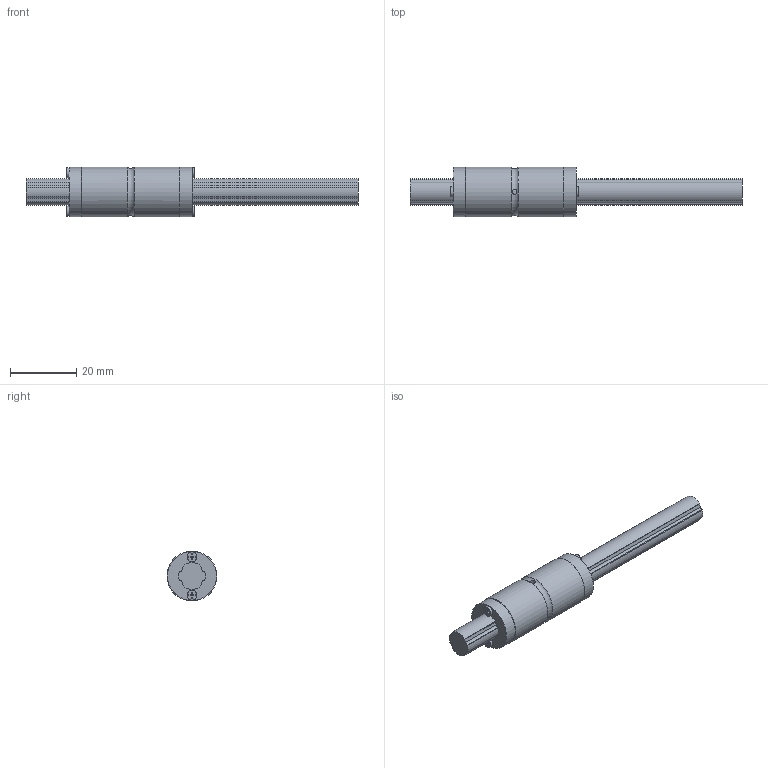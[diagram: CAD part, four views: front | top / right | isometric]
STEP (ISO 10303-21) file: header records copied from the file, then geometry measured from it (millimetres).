
FILE_DESCRIPTION(/* description */ ('STEP AP214'),/* implementation_level */ '2;1');
FILE_NAME(/* name */ 'LT8XL+100L(00)',/* time_stamp */ '2024-09-05T14:14:32+02:00',/* author */ ('License CC BY-ND 4.0'),/* organization */ ('CADENAS'),/* preprocessor_version */ 'ST-DEVELOPER v19.3',/* originating_system */ 'PARTsolutions',/* authorisation */ ' ');
FILE_SCHEMA (('AUTOMOTIVE_DESIGN {1 0 10303 214 3 1 1}'));
Length unit declared in the file: millimetre
Products named in the file (3): LT8XL+100L(00); 1LT8XL 100Shaft; 1LT8XL Cylindar
Assembly tree (2 placements, depth 2):
  LT8XL+100L(00)
    1LT8XL 100Shaft
    1LT8XL Cylindar
Bounding box: 100 x 15 x 15 mm (x, y, z)
Volume: 9474.6 mm3; surface area: 5708.6 mm2
Topology: 2 solids, 2 shells, 118 faces, 318 edges, 212 vertices
Faces by surface type: plane 71, cylinder 44, cone 2, torus 1
Full cylindrical faces by diameter (mm): 1.5 x2, 3 x4, 14.8 x2, 15 x2
Entity records: 3721 total; most frequent: CARTESIAN_POINT 687, DIRECTION 616, ORIENTED_EDGE 600, EDGE_CURVE 300, LINE 210, VECTOR 210, VERTEX_POINT 206, AXIS2_PLACEMENT_3D 203
